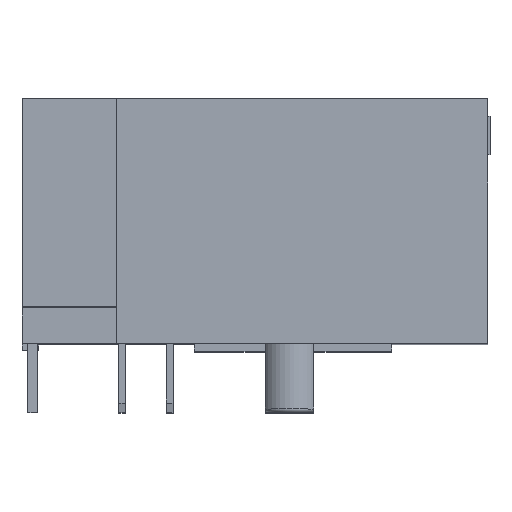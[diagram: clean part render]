
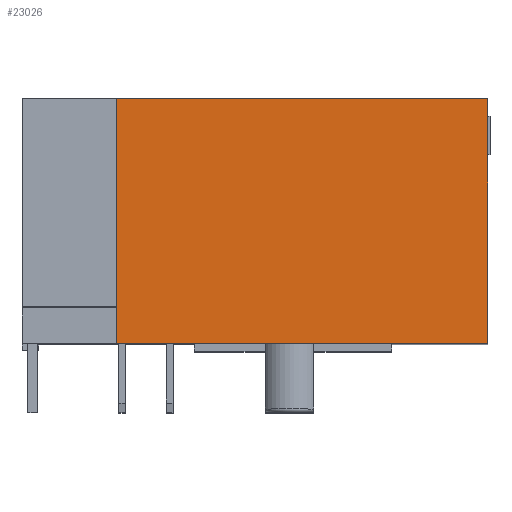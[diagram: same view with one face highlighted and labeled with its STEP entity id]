
A CAD part, top view. The second image highlights one B-rep face of the part: STEP entity #23026.
In plain terms, the highlighted planar face has unit normal (0, 0, 1).
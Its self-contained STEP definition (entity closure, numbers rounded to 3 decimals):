
#15477=DIRECTION('',(-1.,0.,0.));
#15478=VECTOR('',#15477,19.7);
#15479=CARTESIAN_POINT('',(13.34,-1.7,7.845));
#15480=LINE('',#15479,#15478);
#15481=DIRECTION('',(0.,1.,0.));
#15482=VECTOR('',#15481,13.);
#15483=CARTESIAN_POINT('',(-6.36,-1.7,7.845));
#15484=LINE('',#15483,#15482);
#15485=DIRECTION('',(1.,0.,0.));
#15486=VECTOR('',#15485,19.7);
#15487=CARTESIAN_POINT('',(-6.36,11.3,7.845));
#15488=LINE('',#15487,#15486);
#15489=DIRECTION('',(0.,-1.,0.));
#15490=VECTOR('',#15489,13.);
#15491=CARTESIAN_POINT('',(13.34,11.3,7.845));
#15492=LINE('',#15491,#15490);
#17495=CARTESIAN_POINT('',(13.34,-1.7,7.845));
#17497=VERTEX_POINT('',#17495);
#17499=CARTESIAN_POINT('',(13.34,11.3,7.845));
#17500=VERTEX_POINT('',#17499);
#17651=CARTESIAN_POINT('',(-6.36,-1.7,7.845));
#17652=VERTEX_POINT('',#17651);
#18592=CARTESIAN_POINT('',(-6.36,11.3,7.845));
#18593=VERTEX_POINT('',#18592);
#23014=CARTESIAN_POINT('',(3.49,4.8,7.845));
#23015=DIRECTION('',(0.,0.,1.));
#23016=DIRECTION('',(1.,0.,0.));
#23017=AXIS2_PLACEMENT_3D('',#23014,#23015,#23016);
#23018=PLANE('',#23017);
#23019=ORIENTED_EDGE('',*,*,#19927,.T.);
#23021=ORIENTED_EDGE('',*,*,#23020,.T.);
#23022=ORIENTED_EDGE('',*,*,#22999,.T.);
#23023=ORIENTED_EDGE('',*,*,#19759,.T.);
#23024=EDGE_LOOP('',(#23019,#23021,#23022,#23023));
#23025=FACE_OUTER_BOUND('',#23024,.F.);
#23026=ADVANCED_FACE('',(#23025),#23018,.T.);
#19759=EDGE_CURVE('',#17500,#17497,#15492,.T.);
#19927=EDGE_CURVE('',#17497,#17652,#15480,.T.);
#22999=EDGE_CURVE('',#18593,#17500,#15488,.T.);
#23020=EDGE_CURVE('',#17652,#18593,#15484,.T.);
